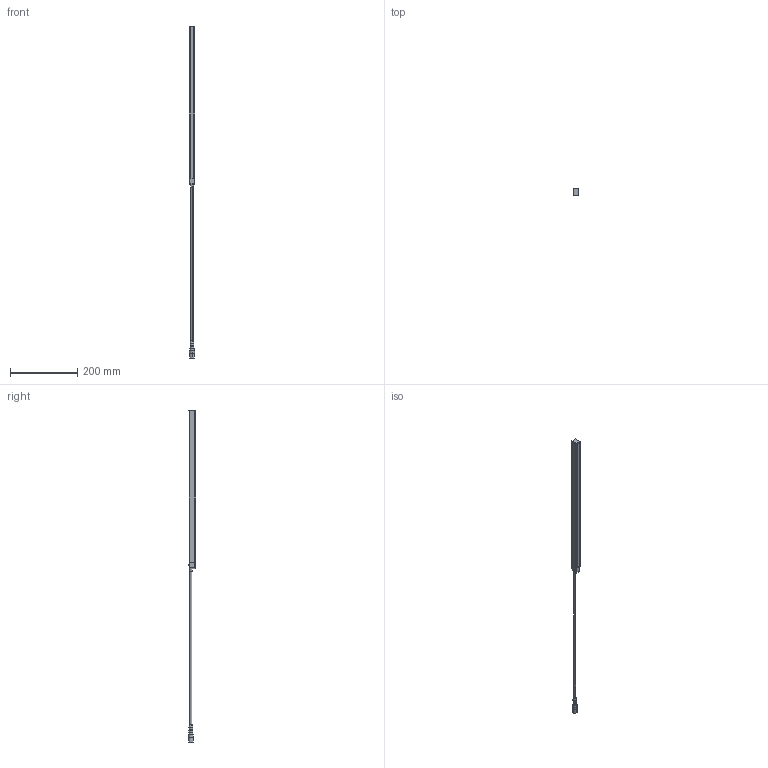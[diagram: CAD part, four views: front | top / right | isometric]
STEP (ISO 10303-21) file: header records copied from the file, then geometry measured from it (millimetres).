
FILE_DESCRIPTION (( 'STEP AP203' ), '1' );
FILE_NAME ('m400_450.STEP', '2008-10-22T14:25:29', ( 'CEDES AG' ), ( 'CEDES AG' ), 'SwSTEP 2.0', 'SolidWorks 2007', '' );
FILE_SCHEMA (( 'CONFIG_CONTROL_DESIGN' ));
Length unit declared in the file: millimetre
Products named in the file (4): master_m400_p15x20_m400_p1520_450; master_m400_end_cap_Standard; master_m400_connectingcable_female; m400_450
Assembly tree (3 placements, depth 2):
  m400_450
    master_m400_p15x20_m400_p1520_450
    master_m400_end_cap_Standard
    master_m400_connectingcable_female
Bounding box: 15.5 x 21.8 x 987.08 mm (x, y, z)
Volume: 161339.5 mm3; surface area: 48161.6 mm2
Topology: 3 solids, 4 shells, 141 faces, 327 edges, 204 vertices
Faces by surface type: plane 75, cylinder 28, torus 20, cone 18
Entity records: 4401 total; most frequent: DIRECTION 745, CARTESIAN_POINT 678, ORIENTED_EDGE 654, EDGE_CURVE 327, AXIS2_PLACEMENT_3D 271, VERTEX_POINT 204, VECTOR 203, LINE 203
